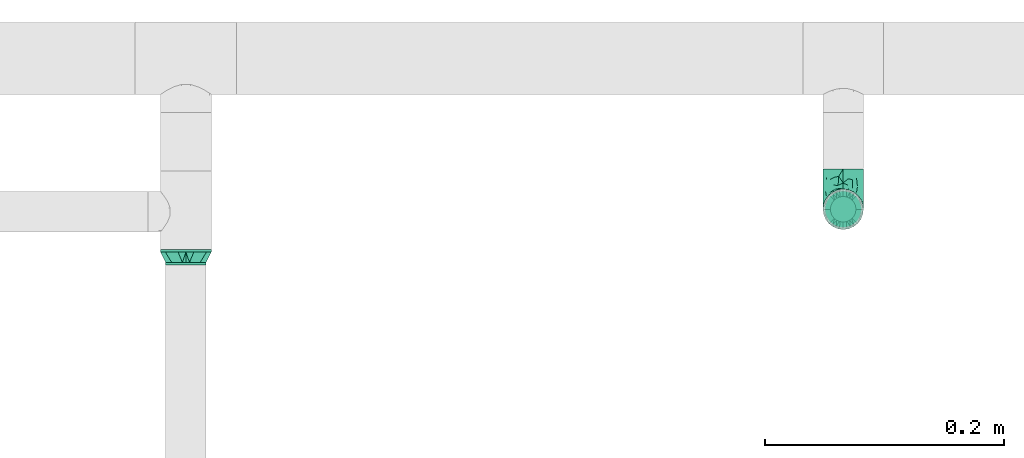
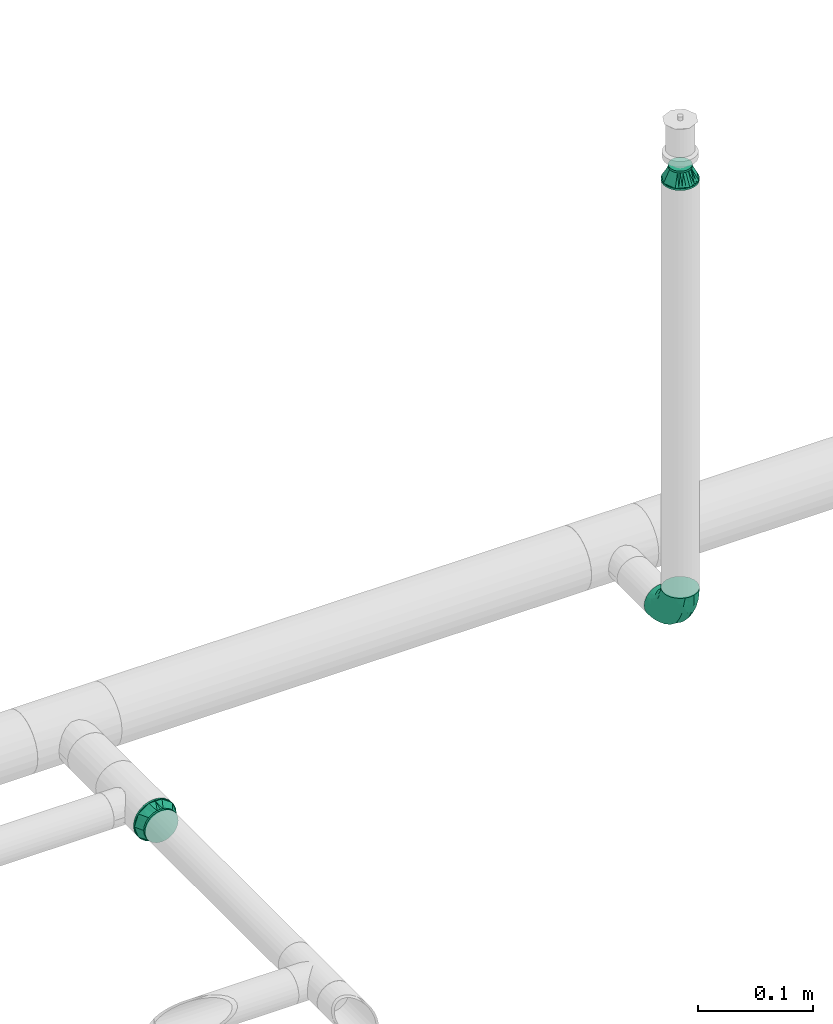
# One storey, part 70 of 157: 3 flow fittings.
"""IFC2X3 building model written with IfcOpenShell, lengths in millimetres."""

import ifcopenshell
import ifcopenshell.guid

model = None  # the IFC model being written
_history = None  # IfcOwnerHistory: only IFC2X3 demands one
_inside = {}  # id of a spatial element -> (the spatial element, [elements in it])
_under = {}  # id of a project, library or spatial element -> (it, [spatial elements below it])
_declared = {}  # id of a project -> (the project, [libraries it declares])
_typed = {}  # id of a type object -> (the type object, [elements of that type])
_made_of = {}  # id of a material, layer set ... -> (it, [elements and type objects made of it])


def new_model(schema):
    """Start an empty IFC model of exactly this schema.

    Asked for "IFC4X3", IfcOpenShell would pick the latest addendum, in which some entities
    have other attributes; the version numbers below select the first issue.
    IFC2X3 requires an IfcOwnerHistory on every rooted entity: one is made here for all.
    """
    global model, _history
    if schema == "IFC4X3":
        model = ifcopenshell.file(schema_version=(4, 3, 0, 0))
    else:
        model = ifcopenshell.file(schema=schema)
    _inside.clear()
    _under.clear()
    _declared.clear()
    _typed.clear()
    _made_of.clear()
    _history = None
    if model.schema == "IFC2X3":
        org = make("IfcOrganization", Name="unknown")
        user = make(
            "IfcPersonAndOrganization",
            ThePerson=make("IfcPerson", FamilyName="unknown"),
            TheOrganization=org,
        )
        app = make(
            "IfcApplication",
            ApplicationDeveloper=org,
            Version="unknown",
            ApplicationFullName="unknown",
            ApplicationIdentifier="unknown",
        )
        _history = make(
            "IfcOwnerHistory",
            OwningUser=user,
            OwningApplication=app,
            ChangeAction="ADDED",
            CreationDate=0,
        )
    return model


def make(cls, **values):
    """One entity of the class cls with the attributes given. An attribute that is None is left unset."""
    return model.create_entity(
        cls, **{name: value for name, value in values.items() if value is not None}
    )


def entity(cls, *values):
    """Any entity or typed value of the class cls, its attributes in the order of the schema. None: left unset."""
    e = model.create_entity(cls)
    for i, value in enumerate(values):
        if value is not None:
            e[i] = value
    return e


def rooted(cls, **values):
    """An entity with a GlobalId (a new one), such as an element, a storey or a relation."""
    return make(cls, GlobalId=ifcopenshell.guid.new(), OwnerHistory=_history, **values)


def si_unit(unit_type, name, prefix=None):
    """IfcSIUnit, for example si_unit("LENGTHUNIT", "METRE", prefix="MILLI")."""
    return make("IfcSIUnit", UnitType=unit_type, Prefix=prefix, Name=name)


def converted_unit(unit_type, name, factor, base, dimensions=None, offset=None):
    """IfcConversionBasedUnit, such as the inch: factor (a typed value) times the base unit."""
    return make(
        "IfcConversionBasedUnit"
        if offset is None
        else "IfcConversionBasedUnitWithOffset",
        ConversionOffset=offset,
        Dimensions=None
        if dimensions is None
        else entity("IfcDimensionalExponents", *dimensions),
        UnitType=unit_type,
        Name=name,
        ConversionFactor=make(
            "IfcMeasureWithUnit", ValueComponent=factor, UnitComponent=base
        ),
    )


def derived_unit(unit_type, elements):
    """IfcDerivedUnit: a product of units, each with its exponent."""
    return make(
        "IfcDerivedUnit",
        Elements=[
            make("IfcDerivedUnitElement", Unit=unit, Exponent=power)
            for unit, power in elements
        ],
        UnitType=unit_type,
    )


def assignment(units):
    """IfcUnitAssignment: the units of a project."""
    return None if units is None else make("IfcUnitAssignment", Units=units)


def point(xyz):
    """IfcCartesianPoint."""
    return None if xyz is None else make("IfcCartesianPoint", Coordinates=xyz)


def direction(xyz):
    """IfcDirection."""
    return None if xyz is None else make("IfcDirection", DirectionRatios=xyz)


def frame(location, z_axis=None, x_axis=None):
    """IfcAxis2Placement3D, a coordinate frame: its origin and axes. An axis left out is left unset."""
    return make(
        "IfcAxis2Placement3D",
        Location=point(location),
        Axis=direction(z_axis),
        RefDirection=direction(x_axis),
    )


def origin_with_axes():
    """The frame at (0, 0, 0) with the z axis (0, 0, 1) and the x axis (1, 0, 0) written out."""
    return frame((0.0, 0.0, 0.0), z_axis=(0.0, 0.0, 1.0), x_axis=(1.0, 0.0, 0.0))


def place(relative_to, where):
    """IfcLocalPlacement: puts the frame where relative to a parent placement (None: the world)."""
    return make(
        "IfcLocalPlacement", PlacementRelTo=relative_to, RelativePlacement=where
    )


def context(
    kind, dimensions, precision=None, world=None, true_north=None, identifier=None
):
    """IfcGeometricRepresentationContext, for example the 3D "Model" context."""
    return make(
        "IfcGeometricRepresentationContext",
        ContextIdentifier=identifier,
        ContextType=kind,
        CoordinateSpaceDimension=dimensions,
        Precision=precision,
        WorldCoordinateSystem=world,
        TrueNorth=true_north,
    )


def subcontext(parent, identifier, kind, view, scale=None):
    """IfcGeometricRepresentationSubContext, for example "Body" below "Model"."""
    return make(
        "IfcGeometricRepresentationSubContext",
        ContextIdentifier=identifier,
        ContextType=kind,
        ParentContext=parent,
        TargetScale=scale,
        TargetView=view,
    )


def project(units=None, contexts=None):
    """IfcProject with its units and contexts."""
    return rooted(
        "IfcProject",
        Name="project",
        RepresentationContexts=contexts,
        UnitsInContext=assignment(units),
    )


def spatial(cls, under=None, at=None, **own):
    """A site, building, storey or space (cls), placed at a placement, below another one or the project."""
    s = rooted(cls, ObjectPlacement=at, **own)
    if under is not None:
        _under.setdefault(under.id(), (under, []))[1].append(s)
    return s


def faces_of(points, faces, orient=None, outer=None):
    """IfcFace entities. A face is a list of loops; a loop is a list of indices into points, from 0.

    orient and outer hold one flag for each loop. By default every Orientation is true, the
    first loop of a face is its IfcFaceOuterBound and the others are IfcFaceBound.
    """
    made = []
    for i, loops in enumerate(faces):
        bounds = []
        for j, loop in enumerate(loops):
            is_outer = j == 0 if outer is None else outer[i][j]
            bounds.append(
                make(
                    "IfcFaceOuterBound" if is_outer else "IfcFaceBound",
                    Bound=make("IfcPolyLoop", Polygon=[points[k] for k in loop]),
                    Orientation=True if orient is None else orient[i][j],
                )
            )
        made.append(make("IfcFace", Bounds=bounds))
    return made


def open_shell(faces, orient=None, outer=None):
    """The faces of one IfcOpenShell. surface_model builds it on its shared points."""
    return ("IfcOpenShell", faces, orient, outer)


def surface_model(cls, points, shells):
    """IfcFaceBasedSurfaceModel or IfcShellBasedSurfaceModel (cls): surfaces that need not close."""
    shared = [point(p) for p in points]
    made = [make(c, CfsFaces=faces_of(shared, fs, o, b)) for c, fs, o, b in shells]
    if cls == "IfcFaceBasedSurfaceModel":
        return make(cls, FbsmFaces=made)
    return make(cls, SbsmBoundary=made)


def shape(context_of_items, identifier, shape_type, items):
    """IfcShapeRepresentation: the items that make up one representation, for example the "Body"."""
    return make(
        "IfcShapeRepresentation",
        ContextOfItems=context_of_items,
        RepresentationIdentifier=identifier,
        RepresentationType=shape_type,
        Items=items,
    )


def source(mapping_origin, context_of_items, identifier, shape_type, items):
    """IfcRepresentationMap: a shape defined once, which mapped items show again and again."""
    return make(
        "IfcRepresentationMap",
        MappingOrigin=mapping_origin,
        MappedRepresentation=shape(context_of_items, identifier, shape_type, items),
    )


def transform(
    local_origin,
    x_axis=None,
    y_axis=None,
    z_axis=None,
    scale=None,
    scale2=None,
    scale3=None,
    uniform=True,
):
    """IfcCartesianTransformationOperator3D, or its non-uniform kind. x_axis, y_axis, z_axis: its Axis1, 2, 3."""
    if uniform:
        return make(
            "IfcCartesianTransformationOperator3D",
            Axis1=direction(x_axis),
            Axis2=direction(y_axis),
            LocalOrigin=point(local_origin),
            Scale=scale,
            Axis3=direction(z_axis),
        )
    return make(
        "IfcCartesianTransformationOperator3DnonUniform",
        Axis1=direction(x_axis),
        Axis2=direction(y_axis),
        LocalOrigin=point(local_origin),
        Scale=scale,
        Axis3=direction(z_axis),
        Scale2=scale2,
        Scale3=scale3,
    )


def mapped(mapping_source, mapping_target):
    """IfcMappedItem: shows the shape of a source again, moved by a transform."""
    return make(
        "IfcMappedItem", MappingSource=mapping_source, MappingTarget=mapping_target
    )


def made_of(thing, what):
    """Note that an element or type object is made of a material, layer set ...; save() writes the relation."""
    if what is not None:
        _made_of.setdefault(what.id(), (what, []))[1].append(thing)
    return thing


def type_object(cls, material=None, **own):
    """A type object (cls), such as IfcWallType, which elements share."""
    return made_of(rooted(cls, **own), material)


def element(
    cls,
    number,
    at=None,
    inside=None,
    cuts=None,
    type_object=None,
    material=None,
    context=None,
    identifier="Body",
    shape_type=None,
    held_by="IfcProductDefinitionShape",
    body=None,
    shapes=None,
    **own,
):
    """One element of the class cls, such as IfcWall. Its Tag is "e" and its number.

    at: its placement. inside: the storey or other place that contains it. cuts: it is an
    opening in that element (IfcRelVoidsElement). A single representation is given by context,
    identifier, shape_type and body (its items); several are given by shapes. held_by: the class
    of the entity that holds the representations. save() writes the other relations.
    """
    e = rooted(cls, Tag="e%d" % number, ObjectPlacement=at, **own)
    if body is not None:
        shapes = [shape(context, identifier, shape_type, body)]
    if shapes is not None:
        e.Representation = make(held_by, Representations=shapes)
    if inside is not None:
        _inside.setdefault(inside.id(), (inside, []))[1].append(e)
    if cuts is not None:
        rooted(
            "IfcRelVoidsElement", RelatingBuildingElement=cuts, RelatedOpeningElement=e
        )
    if type_object is not None:
        _typed.setdefault(type_object.id(), (type_object, []))[1].append(e)
    return made_of(e, material)


def aggregate(whole, parts):
    """IfcRelAggregates: a whole, such as a stair, and the parts it consists of."""
    return rooted("IfcRelAggregates", RelatingObject=whole, RelatedObjects=parts)


def save(model, path):
    """Write the relations noted so far, then the file.

    IfcRelAggregates (storeys below a building ...), IfcRelContainedInSpatialStructure (elements
    in a storey), IfcRelDefinesByType, IfcRelAssociatesMaterial and IfcRelDeclares: one each for
    every whole, place, type object, material and project.
    """
    for whole, parts in _under.values():
        aggregate(whole, parts)
    for where, things in _inside.values():
        rooted(
            "IfcRelContainedInSpatialStructure",
            RelatedElements=things,
            RelatingStructure=where,
        )
    for kind, things in _typed.values():
        rooted("IfcRelDefinesByType", RelatedObjects=things, RelatingType=kind)
    for what, things in _made_of.values():
        rooted("IfcRelAssociatesMaterial", RelatedObjects=things, RelatingMaterial=what)
    for by, libraries in _declared.values():
        rooted("IfcRelDeclares", RelatingContext=by, RelatedDefinitions=libraries)
    model.write(path)


model = new_model("IFC2X3")

# Units and contexts
model_context = context("Model", 3, precision=0.01, world=frame((0.0, 4.29681676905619e-09, 0.0)), true_north=direction((4.01073788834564e-13, 1.0)))
plan_context = context("Plan", 3, precision=0.01, world=frame((0.0, 4.29681676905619e-09, 0.0)), true_north=direction((4.01073788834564e-13, 1.0)))
body_context = subcontext(model_context, "Body", "Model", "MODEL_VIEW")
ifc_project = project(units=[converted_unit("PLANEANGLEUNIT", "DEGREE", entity("IfcPositiveLengthMeasure", 0.0174532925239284), si_unit("PLANEANGLEUNIT", "RADIAN"), dimensions=[0, 0, 0, 0, 0, 0, 0]), si_unit("AREAUNIT", "SQUARE_METRE"), si_unit("LENGTHUNIT", "METRE", prefix="MILLI"), si_unit("MASSUNIT", "GRAM", prefix="KILO"), si_unit("POWERUNIT", "WATT"), si_unit("PRESSUREUNIT", "PASCAL"), si_unit("FORCEUNIT", "NEWTON", prefix="KILO"), si_unit("ELECTRICCURRENTUNIT", "AMPERE"), si_unit("THERMODYNAMICTEMPERATUREUNIT", "DEGREE_CELSIUS"), si_unit("TIMEUNIT", "SECOND"), si_unit("VOLUMEUNIT", "CUBIC_METRE"), derived_unit("LINEARVELOCITYUNIT", [(si_unit("LENGTHUNIT", "METRE"), 1), (si_unit("TIMEUNIT", "SECOND"), -1)]), derived_unit("VOLUMETRICFLOWRATEUNIT", [(si_unit("VOLUMEUNIT", "CUBIC_METRE"), 1), (si_unit("TIMEUNIT", "SECOND"), -1)]), derived_unit("THERMALTRANSMITTANCEUNIT", [(si_unit("POWERUNIT", "WATT"), 1), (si_unit("THERMODYNAMICTEMPERATUREUNIT", "KELVIN"), -1), (si_unit("AREAUNIT", "SQUARE_METRE"), -1)])], contexts=[model_context, plan_context])

# Site, building, storey
site_placement = place(None, frame((0.0, -4.29681676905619e-09, 0.0), z_axis=(0.0, 0.0, 1.0), x_axis=(1.0, 0.0, 0.0)))
site = spatial("IfcSite", under=ifc_project, at=site_placement, CompositionType="ELEMENT")
building_placement = place(site_placement, frame((0.0, 4.29681676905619e-09, 0.0), z_axis=(0.0, 0.0, 1.0), x_axis=(1.0, 0.0, 0.0)))
building = spatial("IfcBuilding", under=site, at=building_placement, Name="mc-building", CompositionType="ELEMENT")
storey_placement = place(building_placement, frame((0.0, 0.0, 204000.0), z_axis=(0.0, 0.0, 1.0), x_axis=(1.0, 0.0, 0.0)))
storey = spatial("IfcBuildingStorey", under=building, at=storey_placement, Name="Nivå D", CompositionType="ELEMENT", Elevation=204000.0)

# Flow fittings
pipe_fitting_type_1 = type_object("IfcPipeFittingType", Name="magi_pipe_fe_elbow_short_001", PredefinedType="BEND")
shared_shape_1 = source(origin_with_axes(), body_context, "Body", "SurfaceModel", [
    surface_model("IfcShellBasedSurfaceModel", [(-33.8, 8.45, -14.63583), (-33.8, 4.37404, -16.32415), (-33.8, 11.9501, -11.9501), (-33.8, -11.9501, -11.9501), (-33.8, -14.63583, -8.45), (-33.8, -8.45, -14.63583), (-33.8, 0.0, -16.9), (-33.8, -4.37404, -16.32415), (-33.8, -4.37404, 16.32415), (-33.8, 0.0, 16.9), (-33.8, -8.45, 14.63583), (-33.8, 16.32415, -4.37404), (-33.8, 14.63583, -8.45), (-33.8, -16.32415, -4.37404), (-33.8, -16.9, 0.0), (-33.8, -16.32415, 4.37404), (-33.8, 11.9501, 11.9501), (-33.8, 14.63583, 8.45), (-33.8, 16.32415, 4.37404), (-33.8, 4.37404, 16.32415), (-33.8, 8.45, 14.63583), (-33.8, -14.63583, 8.45), (-33.8, -11.9501, 11.9501), (-33.8, 16.9, 0.0), (-11.9501, 33.8, -11.9501), (0.0, 33.8, -16.9), (-4.37404, 33.8, -16.32415), (-8.45, 33.8, -14.63583), (-14.63583, 33.8, -8.45), (-16.32415, 33.8, -4.37404), (14.63583, 33.8, -8.45), (8.45, 33.8, 14.63583), (16.32415, 33.8, -4.37404), (8.45, 33.8, -14.63583), (11.9501, 33.8, -11.9501), (4.37404, 33.8, -16.32415), (16.32415, 33.8, 4.37404), (16.9, 33.8, 0.0), (-11.9501, 33.8, 11.9501), (-16.32415, 33.8, 4.37404), (-14.63583, 33.8, 8.45), (-8.45, 33.8, 14.63583), (-4.37404, 33.8, 16.32415), (11.9501, 33.8, 11.9501), (14.63583, 33.8, 8.45), (0.0, 33.8, 16.9), (4.37404, 33.8, 16.32415), (-16.9, 33.8, 0.0), (-24.79389, -13.12945, 9.48721), (-22.19287, -9.75018, 12.59315), (-24.09897, -14.97035, 0.0), (-14.93934, -10.76256, 8.5297), (-22.46095, -14.75051, 5.27077), (14.75051, 22.46094, 5.27077), (11.9251, 13.23888, 4.33236), (13.04069, 14.39795, 0.0), (7.71387, 13.68847, 11.55891), (9.75018, 22.19287, 12.59315), (4.10169, 13.0571, 14.04018), (-24.84007, -6.39063, 15.2048), (-25.81779, -2.23879, 16.61097), (-23.66549, 2.59054, 16.87119), (-26.50418, 14.06512, 11.08152), (-24.21253, 17.66365, 7.72657), (-29.58514, 15.86957, 7.00283), (-6.17382, -7.5455, 0.0), (-13.23888, -11.9251, 4.33236), (-14.39795, -13.04069, 0.0), (-17.81434, 18.87373, 11.97104), (-6.30846, 29.15138, 15.82987), (-2.31622, 25.28002, 16.85849), (-29.23923, 10.23435, 13.77053), (-1.45439, -2.85688, 7.61475), (-0.28326, 0.34872, 10.09509), (-5.74484, -4.04709, 10.4122), (-4.41137, 11.31918, 16.59407), (-8.39727, 3.10034, 15.7812), (-1.72649, 9.1306, 15.53089), (-17.39909, 24.75344, 7.64977), (-26.19233, 20.0512, 0.0), (-28.14518, 17.29657, 4.25857), (-26.05147, 6.6281, 15.96447), (-5.87354, 16.61944, 16.86968), (-12.51807, 12.51807, 16.48937), (-10.06312, 7.38516, 16.81295), (-3.01882, 3.01882, 13.81718), (-13.0571, -4.10169, 14.04018), (-16.82553, -0.15166, 16.38038), (10.76256, 14.93934, 8.5297), (13.12945, 24.79389, 9.48721), (6.39063, 24.84007, 15.2048), (2.23879, 25.81779, 16.61097), (-13.68847, -7.71387, 11.55891), (14.97035, 24.09897, 0.0), (-7.30894, 22.89991, 16.09489), (-10.67958, 26.17414, 14.008), (-12.78295, 18.26924, 15.06066), (-13.88562, 22.45231, 12.93244), (-18.04944, 15.16501, 14.04434), (-23.11658, 20.08178, 4.02986), (-21.84989, 21.84989, 0.0), (-18.55817, 25.48277, 3.93065), (-13.95142, 26.94732, 11.03289), (-18.57098, 7.23906, 16.59756), (-16.58335, 4.14122, 16.89279), (-17.96666, 11.46709, 15.63151), (-9.84453, 17.54304, 16.18938), (0.15166, 16.82553, 16.38038), (-23.27207, 11.47201, 14.23154), (3.84842, 5.86994, 10.70473), (-8.0212, -7.54413, 7.93275), (1.00345, -2.19508, 4.57414), (5.13203, 3.01004, 5.90201), (5.24161, 1.7543, 2.53265), (8.70457, 7.04947, 3.99182), (-20.0512, 26.19233, 0.0), (8.4852, 8.76699, 7.09296), (-4.55488, -6.72064, 4.90681), (2.05031, -2.05031, 0.0), (7.5455, 6.17382, 0.0), (-26.75399, 2.1369, -16.845), (-14.61995, 24.73803, -11.27736), (-28.45274, -13.45335, -9.81895), (-26.00469, 6.63555, -15.96645), (-23.06726, 20.04573, -4.26202), (-13.80647, -4.26506, -14.17873), (-14.67501, -0.21081, -16.07388), (-6.7902, -0.2828, -13.8478), (-24.53586, 11.08096, -14.13417), (-26.72048, 14.00837, -11.05776), (10.0967, 24.44989, -12.75976), (5.83237, 21.40218, -15.03047), (6.66249, 28.54238, -15.38093), (-20.38182, 15.48705, -12.74596), (12.53268, 21.23441, -9.15363), (12.54494, 15.67504, -5.54878), (9.7522, 12.89279, -8.66343), (-15.65186, 19.64213, -13.01327), (-12.03528, 20.66498, -14.67665), (-15.61907, 15.61906, -14.83879), (-25.56551, -15.26206, 0.0), (-24.65452, -15.12934, -5.50955), (13.45335, 28.45274, -9.81895), (15.12934, 24.65452, -5.50955), (-7.35442, -8.31014, -5.65563), (-15.67504, -12.54494, -5.54878), (-24.44989, -10.0967, -12.75976), (0.16522, 0.41303, -9.71728), (-5.70658, -5.33066, -8.89288), (-5.13869, -2.37198, -11.53565), (-21.23441, -12.53268, -9.15363), (0.71146, 7.93863, -14.09382), (0.21081, 14.67501, -16.07388), (3.49291, 14.42772, -14.76381), (-24.89911, -2.13088, -16.591), (-28.54238, -6.66249, -15.38093), (-18.44386, -7.71663, -13.26957), (2.13088, 24.89911, -16.591), (-28.64342, 17.44413, -2.89318), (1.70017, -1.28722, -5.09504), (-16.57067, 26.81947, -7.36596), (-17.69055, 27.4263, -3.76405), (-12.89279, -9.7522, -8.66343), (-5.96611, 5.96611, -15.95814), (-20.53709, 20.09345, -8.28985), (-2.1369, 26.75399, -16.845), (-6.89872, 24.58781, -16.02578), (-10.60739, 26.53157, -13.98044), (-21.40218, -5.83237, -15.03047), (2.93192, 5.89627, -11.55917), (6.89393, 12.61842, -11.82233), (5.58056, 5.95325, -8.79455), (-3.99512, 18.61798, -16.89635), (8.31014, 7.35442, -5.65563), (-9.1383, 9.86148, -16.89041), (-9.99983, 16.02119, -16.39699), (-16.68576, 9.78031, -16.34199), (-27.01915, 16.61158, -7.12979), (15.26206, 25.56551, 0.0), (-18.61798, 3.99512, -16.89635), (-19.37495, 27.82495, 0.0), (-12.61842, -6.89393, -11.82233), (-18.84705, 19.14018, -10.96545)], [open_shell([[[0, 1, 2]], [[3, 4, 5]], [[6, 7, 5]], [[8, 9, 10]], [[1, 6, 2]], [[11, 12, 2]], [[4, 2, 6]], [[2, 13, 10]], [[5, 4, 6]], [[2, 4, 13]], [[14, 15, 13]], [[11, 2, 16]], [[11, 17, 18]], [[11, 16, 17]], [[19, 20, 16]], [[16, 2, 10]], [[19, 16, 10]], [[21, 22, 15]], [[22, 13, 15]], [[22, 10, 13]], [[10, 9, 19]], [[11, 18, 23]], [[24, 25, 26]], [[24, 26, 27]], [[24, 28, 29]], [[25, 24, 30]], [[31, 32, 24]], [[33, 30, 34]], [[33, 35, 25]], [[25, 30, 33]], [[32, 30, 24]], [[32, 36, 37]], [[38, 24, 29]], [[39, 40, 29]], [[40, 38, 29]], [[38, 41, 42]], [[38, 31, 24]], [[31, 38, 42]], [[36, 43, 44]], [[36, 32, 43]], [[31, 45, 46]], [[32, 31, 43]], [[42, 45, 31]], [[39, 29, 47]], [[22, 48, 49]], [[15, 14, 50]], [[51, 48, 52]], [[53, 54, 55]], [[48, 22, 21]], [[15, 52, 21]], [[56, 57, 58]], [[49, 10, 22]], [[49, 59, 10]], [[9, 60, 61]], [[62, 63, 64]], [[65, 66, 67]], [[57, 43, 31]], [[62, 68, 63]], [[42, 69, 70]], [[20, 71, 16]], [[8, 60, 9]], [[72, 73, 74]], [[75, 76, 77]], [[16, 62, 17]], [[40, 39, 78]], [[79, 23, 80]], [[64, 18, 17]], [[9, 61, 19]], [[19, 81, 20]], [[82, 83, 84]], [[74, 85, 86]], [[59, 86, 87]], [[88, 89, 57]], [[90, 31, 46]], [[44, 53, 36]], [[46, 45, 91]], [[54, 53, 88]], [[44, 89, 53]], [[92, 86, 49]], [[89, 44, 43]], [[10, 59, 8]], [[53, 55, 93]], [[93, 36, 53]], [[66, 52, 67]], [[94, 82, 70]], [[95, 96, 94]], [[97, 98, 96]], [[79, 99, 100]], [[41, 38, 95]], [[101, 100, 99]], [[68, 78, 63]], [[42, 41, 69]], [[23, 18, 80]], [[95, 94, 69]], [[78, 101, 99]], [[38, 102, 95]], [[70, 45, 42]], [[97, 95, 102]], [[15, 50, 52]], [[90, 57, 31]], [[57, 90, 58]], [[81, 19, 61]], [[103, 104, 84]], [[105, 81, 103]], [[38, 40, 102]], [[106, 96, 83]], [[94, 106, 82]], [[91, 70, 107]], [[71, 62, 16]], [[62, 108, 98]], [[86, 59, 49]], [[67, 52, 50]], [[60, 59, 87]], [[92, 49, 51]], [[86, 85, 76]], [[91, 90, 46]], [[37, 36, 93]], [[107, 77, 58]], [[107, 58, 90]], [[58, 85, 109]], [[110, 74, 92]], [[72, 74, 110]], [[66, 51, 52]], [[72, 111, 112]], [[113, 114, 112]], [[56, 88, 57]], [[52, 48, 21]], [[49, 48, 51]], [[57, 89, 43]], [[53, 89, 88]], [[103, 81, 61]], [[71, 81, 108]], [[18, 64, 80]], [[63, 78, 99]], [[47, 115, 101]], [[101, 115, 100]], [[40, 78, 102]], [[68, 102, 78]], [[97, 96, 95]], [[105, 98, 108]], [[103, 84, 83]], [[107, 70, 82]], [[76, 84, 87]], [[82, 84, 75]], [[70, 91, 45]], [[90, 91, 107]], [[59, 60, 8]], [[61, 60, 87]], [[73, 85, 74]], [[109, 112, 116]], [[103, 61, 104]], [[105, 103, 83]], [[96, 105, 83]], [[81, 105, 108]], [[96, 98, 105]], [[62, 98, 68]], [[61, 87, 104]], [[87, 84, 104]], [[86, 76, 87]], [[77, 76, 85]], [[58, 77, 85]], [[75, 77, 107]], [[82, 75, 107]], [[76, 75, 84]], [[81, 71, 20]], [[62, 71, 108]], [[95, 69, 41]], [[70, 69, 94]], [[62, 64, 17]], [[80, 63, 99]], [[63, 80, 64]], [[80, 99, 79]], [[66, 65, 117]], [[110, 66, 117]], [[112, 114, 116]], [[118, 117, 65]], [[110, 92, 51]], [[112, 111, 113]], [[119, 55, 54]], [[74, 86, 92]], [[58, 109, 56]], [[116, 56, 109]], [[66, 110, 51]], [[72, 110, 117]], [[111, 72, 117]], [[73, 112, 109]], [[117, 118, 111]], [[113, 111, 118]], [[118, 119, 113]], [[114, 119, 54]], [[119, 114, 113]], [[116, 54, 88]], [[54, 116, 114]], [[116, 88, 56]], [[112, 73, 72]], [[85, 73, 109]], [[78, 39, 101]], [[47, 101, 39]], [[102, 68, 97]], [[97, 68, 98]], [[82, 106, 83]], [[94, 96, 106]], [[1, 120, 6]], [[28, 24, 121]], [[3, 122, 4]], [[0, 123, 1]], [[100, 124, 79]], [[125, 126, 127]], [[128, 2, 129]], [[130, 131, 132]], [[128, 129, 133]], [[134, 135, 136]], [[137, 138, 139]], [[128, 0, 2]], [[67, 140, 141]], [[134, 142, 143]], [[141, 13, 4]], [[144, 65, 145]], [[146, 3, 5]], [[147, 148, 149]], [[145, 141, 150]], [[151, 152, 153]], [[154, 7, 6]], [[5, 155, 146]], [[150, 146, 156]], [[155, 5, 7]], [[143, 135, 134]], [[35, 157, 25]], [[23, 79, 158]], [[148, 159, 144]], [[160, 161, 29]], [[145, 162, 144]], [[163, 152, 151]], [[29, 28, 160]], [[121, 164, 160]], [[33, 34, 130]], [[25, 165, 26]], [[26, 165, 166]], [[142, 34, 30]], [[24, 27, 167]], [[124, 161, 164]], [[157, 35, 132]], [[155, 154, 168]], [[123, 0, 128]], [[169, 170, 171]], [[172, 157, 152]], [[26, 166, 27]], [[132, 35, 33]], [[142, 130, 34]], [[168, 154, 126]], [[136, 135, 173]], [[133, 137, 139]], [[2, 12, 129]], [[170, 131, 130]], [[30, 32, 143]], [[172, 174, 175]], [[176, 123, 128]], [[158, 177, 11]], [[135, 55, 119]], [[167, 27, 166]], [[175, 166, 172]], [[137, 167, 138]], [[122, 141, 4]], [[140, 14, 13]], [[32, 37, 178]], [[170, 130, 134]], [[152, 157, 131]], [[165, 157, 172]], [[153, 170, 151]], [[152, 163, 174]], [[168, 125, 156]], [[122, 146, 150]], [[120, 154, 6]], [[179, 174, 126]], [[179, 126, 154]], [[126, 163, 127]], [[162, 145, 150]], [[140, 13, 141]], [[32, 178, 143]], [[55, 143, 178]], [[177, 129, 12]], [[128, 133, 139]], [[176, 128, 139]], [[120, 123, 179]], [[121, 160, 28]], [[161, 100, 180]], [[166, 175, 138]], [[121, 24, 167]], [[161, 47, 29]], [[79, 124, 158]], [[124, 164, 177]], [[161, 124, 100]], [[136, 171, 170]], [[127, 163, 151]], [[147, 171, 159]], [[148, 144, 162]], [[127, 151, 169]], [[127, 181, 125]], [[129, 177, 164]], [[12, 11, 177]], [[159, 65, 144]], [[67, 141, 145]], [[143, 55, 135]], [[135, 119, 173]], [[123, 120, 1]], [[154, 120, 179]], [[157, 165, 25]], [[166, 165, 172]], [[172, 152, 174]], [[176, 139, 175]], [[126, 174, 163]], [[176, 174, 179]], [[174, 176, 175]], [[123, 176, 179]], [[150, 181, 162]], [[127, 149, 181]], [[181, 148, 162]], [[159, 148, 147]], [[171, 136, 173]], [[170, 134, 136]], [[159, 171, 173]], [[171, 147, 169]], [[169, 147, 149]], [[151, 170, 169]], [[164, 182, 129]], [[182, 121, 137]], [[181, 149, 148]], [[169, 149, 127]], [[182, 137, 133]], [[167, 137, 121]], [[166, 138, 167]], [[175, 139, 138]], [[129, 182, 133]], [[121, 182, 164]], [[161, 160, 164]], [[47, 161, 180]], [[177, 158, 124]], [[23, 158, 11]], [[130, 132, 33]], [[157, 132, 131]], [[143, 142, 30]], [[130, 142, 134]], [[154, 155, 7]], [[146, 155, 168]], [[146, 122, 3]], [[141, 122, 150]], [[152, 131, 153]], [[159, 119, 118]], [[67, 145, 65]], [[170, 153, 131]], [[119, 159, 173]], [[159, 118, 65]], [[156, 125, 181]], [[126, 125, 168]], [[150, 156, 181]], [[168, 156, 146]]])]),
])
flow_fitting_1_placement = place(storey_placement, frame((519235.35, 413913.20018, 2690.0), z_axis=(1.0, 0.0, 0.0), x_axis=(0.0, 0.0, -1.0)))
element("IfcFlowFitting", 1, at=flow_fitting_1_placement, inside=storey, type_object=pipe_fitting_type_1, Name="magi_pipe_fe_elbow_short_001", context=body_context, shape_type="MappedRepresentation", body=[
    mapped(shared_shape_1, transform((0.0, 0.0, 0.0), scale=1.0)),
])
pipe_fitting_type_2 = type_object("IfcPipeFittingType", Name="magi_pipe_fe_reducer_centric_short_NOR", PredefinedType="TRANSITION")
shared_shape_2 = source(origin_with_axes(), body_context, "Body", "SurfaceModel", [
    surface_model("IfcShellBasedSurfaceModel", [(-2.0, -10.6, -18.35974), (-2.0, 0.0, -21.2), (-2.0, -5.48696, -20.47763), (-2.0, 5.48696, -20.47763), (-2.0, 10.6, -18.35974), (8.6, -11.9501, -11.9501), (8.6, -11.9501, 11.9501), (8.6, -16.9, 0.0), (8.6, 11.9501, -11.9501), (8.6, 16.9, 0.0), (8.6, 0.0, -16.9), (0.0, 17.15116, 12.46105), (0.0, 6.55116, -20.1624), (0.0, -21.2, 0.0), (0.0, -6.55116, -20.1624), (0.0, -17.15116, -12.46105), (8.6, 2.98753, -15.66253), (0.0, 0.0, -20.1624), (0.0, -11.85116, -16.31172), (8.6, -2.98753, -15.66253), (8.6, 8.96258, -13.18758), (8.6, 5.97505, -14.42505), (0.0, 11.85116, -16.31172), (8.6, -5.97505, -14.42505), (8.6, -13.18758, -8.96258), (8.6, -8.96258, -13.18758), (0.0, -6.55116, 20.1624), (8.6, -2.98753, 15.66253), (0.0, 0.0, 20.1624), (8.6, 11.9501, 11.9501), (0.0, 11.85116, 16.31172), (8.6, 2.98753, 15.66253), (0.0, 6.55116, 20.1624), (8.6, -8.96258, 13.18758), (8.6, -5.97505, 14.42505), (0.0, -11.85116, 16.31172), (8.6, 5.97505, 14.42505), (8.6, 13.18758, 8.96258), (8.6, 8.96258, 13.18758), (10.6, 4.37404, -16.32415), (10.6, 8.45, -14.63583), (10.6, 11.9501, -11.9501), (10.6, -8.45, -14.63583), (10.6, 16.32415, -4.37404), (10.6, 16.32415, 4.37404), (10.6, 14.63583, -8.45), (10.6, 0.0, -16.9), (10.6, -4.37404, -16.32415), (10.6, -11.9501, -11.9501), (10.6, -16.32415, -4.37404), (10.6, -14.63583, -8.45), (10.6, -16.32415, 4.37404), (10.6, 16.9, 0.0), (10.6, 14.63583, 8.45), (10.6, 11.9501, 11.9501), (10.6, 4.37404, 16.32415), (10.6, 8.45, 14.63583), (10.6, 0.0, 16.9), (10.6, -14.63583, 8.45), (10.6, -16.9, 0.0), (10.6, -8.45, 14.63583), (10.6, -11.9501, 11.9501), (10.6, -4.37404, 16.32415), (8.6, 4.37404, 16.32415), (8.6, -14.63583, 8.45), (8.6, 0.0, 16.9), (8.6, 16.32415, 4.37404), (8.6, 8.45, 14.63583), (8.6, 14.63583, 8.45), (8.6, -8.45, 14.63583), (8.6, -4.37404, 16.32415), (8.6, -16.32415, 4.37404), (8.6, -16.32415, -4.37404), (8.6, -8.45, -14.63583), (8.6, 16.32415, -4.37404), (8.6, 14.63583, -8.45), (8.6, 8.45, -14.63583), (8.6, 4.37404, -16.32415), (8.6, -14.63583, -8.45), (8.6, -4.37404, -16.32415), (-2.0, 0.0, 21.2), (-2.0, 5.48696, 20.47763), (-2.0, 10.6, 18.35974), (-2.0, 14.99066, 14.99066), (-2.0, 18.35974, 10.6), (-2.0, 20.47763, 5.48696), (-2.0, -21.2, 0.0), (-2.0, -14.99066, -14.99066), (-2.0, -5.48696, 20.47763), (-2.0, -14.99066, 14.99066), (-2.0, -10.6, 18.35974), (-2.0, -18.35974, 10.6), (-2.0, -20.47763, 5.48696), (-2.0, 20.47763, -5.48696), (-2.0, 14.99066, -14.99066), (-2.0, 18.35974, -10.6), (-2.0, -18.35974, -10.6), (-2.0, -20.47763, -5.48696), (-2.0, 21.2, 0.0), (0.0, 10.6, -18.35974), (0.0, 0.0, -21.2), (0.0, 5.48696, -20.47763), (0.0, 20.47763, -5.48696), (0.0, 14.99066, -14.99066), (0.0, -14.99066, -14.99066), (0.0, 18.35974, -10.6), (0.0, -10.6, -18.35974), (0.0, -5.48696, -20.47763), (0.0, -18.35974, -10.6), (0.0, -20.47763, -5.48696), (0.0, -18.35974, 10.6), (0.0, 21.2, 0.0), (0.0, 20.47763, 5.48696), (0.0, 18.35974, 10.6), (0.0, 14.99066, 14.99066), (0.0, 0.0, 21.2), (0.0, 10.6, 18.35974), (0.0, 5.48696, 20.47763), (0.0, -14.99066, 14.99066), (0.0, -20.47763, 5.48696), (0.0, -5.48696, 20.47763), (0.0, -10.6, 18.35974), (0.0, -17.15116, 12.46105), (0.0, 17.15116, -12.46105), (0.0, 14.50116, -14.38638), (8.6, -14.42505, -5.97505), (0.0, -19.17558, -6.23052), (0.0, -18.16337, -9.34579), (8.6, 14.42505, -5.97505), (0.0, 19.17558, -6.23052), (8.6, 13.18758, -8.96258), (8.6, 15.66253, -2.98753), (8.6, -15.66253, -2.98753), (0.0, -14.50116, 14.38638), (8.6, 14.42505, 5.97505), (0.0, 19.17558, 6.23052), (0.0, 18.16337, 9.34579), (8.6, -14.42505, 5.97505), (0.0, -19.17558, 6.23052), (8.6, -13.18758, 8.96258), (8.6, -15.66253, 2.98753), (8.6, 15.66253, 2.98753)], [open_shell([[[0, 1, 2]], [[3, 1, 4]], [[5, 6, 7]], [[8, 9, 10]], [[11, 12, 13]], [[13, 12, 14]], [[13, 14, 15]], [[12, 16, 17]], [[5, 15, 18]], [[17, 19, 14]], [[20, 21, 22]], [[19, 23, 14]], [[12, 21, 16]], [[15, 5, 24]], [[25, 5, 18]], [[22, 8, 20]], [[26, 27, 28]], [[29, 11, 30]], [[28, 31, 32]], [[33, 34, 35]], [[31, 36, 32]], [[26, 34, 27]], [[11, 29, 37]], [[38, 29, 30]], [[35, 6, 33]], [[39, 40, 41]], [[42, 39, 41]], [[41, 43, 44]], [[43, 41, 45]], [[41, 44, 42]], [[46, 42, 47]], [[46, 39, 42]], [[48, 49, 50]], [[49, 48, 42]], [[42, 51, 49]], [[44, 43, 52]], [[44, 53, 54]], [[44, 54, 55]], [[55, 51, 42]], [[55, 54, 56]], [[51, 55, 57]], [[57, 58, 51]], [[59, 49, 51]], [[58, 60, 61]], [[58, 57, 60]], [[60, 57, 62]], [[42, 44, 55]], [[63, 64, 65]], [[66, 63, 67]], [[29, 68, 66]], [[29, 66, 67]], [[64, 63, 66]], [[69, 64, 6]], [[69, 70, 65]], [[65, 64, 69]], [[71, 64, 66]], [[71, 72, 7]], [[71, 66, 73]], [[66, 74, 8]], [[8, 74, 75]], [[8, 76, 77]], [[73, 66, 8]], [[77, 10, 8]], [[72, 5, 78]], [[5, 72, 73]], [[73, 10, 79]], [[72, 71, 73]], [[8, 10, 73]], [[74, 66, 9]], [[72, 49, 7]], [[78, 50, 72]], [[42, 5, 73]], [[78, 5, 48]], [[47, 73, 79]], [[72, 50, 49]], [[49, 59, 7]], [[47, 42, 73]], [[48, 5, 42]], [[48, 50, 78]], [[46, 47, 79]], [[79, 10, 46]], [[77, 39, 10]], [[76, 40, 77]], [[45, 8, 75]], [[76, 8, 41]], [[43, 75, 74]], [[76, 41, 40]], [[40, 39, 77]], [[52, 43, 74]], [[45, 75, 43]], [[45, 41, 8]], [[9, 52, 74]], [[10, 39, 46]], [[66, 44, 9]], [[68, 53, 66]], [[56, 29, 67]], [[68, 29, 54]], [[55, 67, 63]], [[66, 53, 44]], [[44, 52, 9]], [[55, 56, 67]], [[54, 29, 56]], [[54, 53, 68]], [[57, 55, 63]], [[63, 65, 57]], [[70, 62, 65]], [[69, 60, 70]], [[58, 6, 64]], [[69, 6, 61]], [[51, 64, 71]], [[69, 61, 60]], [[60, 62, 70]], [[59, 51, 71]], [[58, 64, 51]], [[58, 61, 6]], [[7, 59, 71]], [[65, 62, 57]], [[80, 81, 82]], [[80, 82, 83]], [[83, 84, 85]], [[83, 85, 80]], [[86, 80, 87]], [[88, 89, 90]], [[88, 80, 89]], [[91, 86, 92]], [[89, 80, 91]], [[80, 86, 91]], [[80, 85, 87]], [[85, 93, 4]], [[94, 93, 95]], [[87, 85, 4]], [[4, 93, 94]], [[86, 96, 97]], [[87, 96, 86]], [[0, 87, 4]], [[1, 0, 4]], [[93, 85, 98]], [[99, 100, 101]], [[102, 99, 103]], [[13, 104, 99]], [[102, 103, 105]], [[102, 13, 99]], [[100, 106, 107]], [[100, 99, 106]], [[108, 13, 109]], [[106, 99, 104]], [[108, 104, 13]], [[110, 102, 111]], [[112, 113, 114]], [[112, 114, 115]], [[116, 117, 115]], [[116, 115, 114]], [[112, 115, 118]], [[13, 110, 119]], [[102, 110, 13]], [[118, 120, 121]], [[110, 112, 118]], [[115, 120, 118]], [[110, 111, 112]], [[97, 109, 86]], [[96, 108, 97]], [[106, 87, 0]], [[96, 87, 104]], [[107, 0, 2]], [[97, 108, 109]], [[109, 13, 86]], [[107, 106, 0]], [[104, 87, 106]], [[104, 108, 96]], [[100, 107, 2]], [[2, 1, 100]], [[3, 101, 1]], [[4, 99, 3]], [[105, 94, 95]], [[4, 94, 103]], [[102, 95, 93]], [[4, 103, 99]], [[99, 101, 3]], [[111, 102, 93]], [[105, 95, 102]], [[105, 103, 94]], [[98, 111, 93]], [[1, 101, 100]], [[85, 112, 98]], [[84, 113, 85]], [[116, 83, 82]], [[84, 83, 114]], [[117, 82, 81]], [[85, 113, 112]], [[112, 111, 98]], [[117, 116, 82]], [[114, 83, 116]], [[114, 113, 84]], [[115, 117, 81]], [[81, 80, 115]], [[88, 120, 80]], [[90, 121, 88]], [[110, 89, 91]], [[90, 89, 118]], [[119, 91, 92]], [[90, 118, 121]], [[121, 120, 88]], [[13, 119, 92]], [[110, 91, 119]], [[110, 118, 89]], [[86, 13, 92]], [[80, 120, 115]], [[65, 6, 29]], [[9, 29, 6]], [[6, 10, 9]], [[10, 6, 5]], [[32, 11, 122]], [[32, 122, 26]], [[122, 11, 13]], [[12, 11, 123]], [[123, 11, 111]], [[8, 22, 124]], [[125, 126, 127]], [[22, 21, 12]], [[8, 124, 123]], [[128, 123, 129]], [[17, 16, 10]], [[123, 128, 130]], [[111, 131, 129]], [[13, 132, 7]], [[18, 23, 25]], [[13, 126, 132]], [[19, 17, 10]], [[131, 111, 9]], [[125, 132, 126]], [[15, 24, 127]], [[24, 125, 127]], [[8, 123, 130]], [[23, 18, 14]], [[131, 128, 129]], [[6, 35, 133]], [[134, 135, 136]], [[35, 34, 26]], [[6, 133, 122]], [[137, 122, 138]], [[28, 27, 65]], [[122, 137, 139]], [[13, 140, 138]], [[111, 141, 9]], [[30, 36, 38]], [[111, 135, 141]], [[31, 28, 65]], [[140, 13, 7]], [[134, 141, 135]], [[11, 37, 136]], [[37, 134, 136]], [[6, 122, 139]], [[36, 30, 32]], [[140, 137, 138]]])]),
])
flow_fitting_2_placement = place(storey_placement, frame((518685.97464, 413877.40018, 2690.0), z_axis=(0.0, 0.0, 1.0), x_axis=(0.0, -1.0, 0.0)))
element("IfcFlowFitting", 2, at=flow_fitting_2_placement, inside=storey, type_object=pipe_fitting_type_2, Name="magi_pipe_fe_reducer_centric_short_NOR", context=body_context, shape_type="MappedRepresentation", body=[
    mapped(shared_shape_2, transform((0.0, 0.0, 0.0), scale=1.0)),
])
shared_shape_3 = source(origin_with_axes(), body_context, "Body", "SurfaceModel", [
    surface_model("IfcShellBasedSurfaceModel", [(-2.0, -7.56604, -7.56604), (-2.0, -10.33541, -2.76936), (-2.0, -5.35, -9.26647), (-2.0, 5.35, -9.26647), (-2.0, 10.33541, -2.76936), (-2.0, 7.56604, -7.56604), (12.4, 11.9501, 11.9501), (12.4, 0.0, 16.9), (12.4, 11.9501, -11.9501), (12.4, 16.9, 0.0), (0.0, -10.7, 0.0), (0.0, -5.35, 9.26647), (0.0, -5.35, -9.26647), (0.0, 10.7, 0.0), (12.4, 15.66253, -2.98753), (12.4, 8.96258, -13.18758), (0.0, 6.6875, -6.94985), (12.4, -15.66253, -2.98753), (12.4, -16.9, 0.0), (12.4, 5.97505, -14.42505), (0.0, 5.35, -9.26647), (12.4, 14.42505, -5.97505), (0.0, 8.025, -4.63324), (0.0, 9.3625, -2.31662), (0.0, -9.3625, -2.31662), (0.0, -8.025, -4.63324), (12.4, -14.42505, -5.97505), (12.4, 13.18758, -8.96258), (12.4, -13.18758, -8.96258), (12.4, -11.9501, -11.9501), (0.0, -6.6875, -6.94985), (12.4, -8.96258, -13.18758), (12.4, -5.97505, -14.42505), (12.4, -15.66253, 2.98753), (12.4, -8.96258, 13.18758), (0.0, -6.6875, 6.94985), (12.4, -11.9501, 11.9501), (12.4, 15.66253, 2.98753), (12.4, -5.97505, 14.42505), (12.4, -14.42505, 5.97505), (0.0, -8.025, 4.63324), (0.0, -9.3625, 2.31662), (0.0, 9.3625, 2.31662), (0.0, 8.025, 4.63324), (12.4, 14.42505, 5.97505), (12.4, -13.18758, 8.96258), (12.4, 13.18758, 8.96258), (0.0, 6.6875, 6.94985), (12.4, 8.96258, 13.18758), (0.0, 5.35, 9.26647), (12.4, 5.97505, 14.42505), (14.4, 4.37404, -16.32415), (14.4, 8.45, -14.63583), (14.4, 11.9501, -11.9501), (14.4, -8.45, -14.63583), (14.4, 16.32415, -4.37404), (14.4, 16.32415, 4.37404), (14.4, 14.63583, -8.45), (14.4, 0.0, -16.9), (14.4, -4.37404, -16.32415), (14.4, -11.9501, -11.9501), (14.4, -16.32415, -4.37404), (14.4, -14.63583, -8.45), (14.4, -16.32415, 4.37404), (14.4, 16.9, 0.0), (14.4, 14.63583, 8.45), (14.4, 11.9501, 11.9501), (14.4, 4.37404, 16.32415), (14.4, 8.45, 14.63583), (14.4, 0.0, 16.9), (14.4, -14.63583, 8.45), (14.4, -16.9, 0.0), (14.4, -8.45, 14.63583), (14.4, -11.9501, 11.9501), (14.4, -4.37404, 16.32415), (12.4, 4.37404, 16.32415), (12.4, -14.63583, 8.45), (12.4, 16.32415, 4.37404), (12.4, 8.45, 14.63583), (12.4, 14.63583, 8.45), (12.4, -8.45, 14.63583), (12.4, -4.37404, 16.32415), (12.4, -16.32415, 4.37404), (12.4, -16.32415, -4.37404), (12.4, -8.45, -14.63583), (12.4, 16.32415, -4.37404), (12.4, 14.63583, -8.45), (12.4, 8.45, -14.63583), (12.4, 4.37404, -16.32415), (12.4, 0.0, -16.9), (12.4, -14.63583, -8.45), (12.4, -4.37404, -16.32415), (-2.0, 2.76936, 10.33541), (-2.0, 0.0, 10.7), (-2.0, 5.35, 9.26647), (-2.0, 7.56604, 7.56604), (-2.0, 9.26647, 5.35), (-2.0, 10.33541, 2.76936), (-2.0, -10.33541, 2.76936), (-2.0, -2.76936, 10.33541), (-2.0, -7.56604, 7.56604), (-2.0, -5.35, 9.26647), (-2.0, -9.26647, 5.35), (-2.0, -10.7, 0.0), (-2.0, 9.26647, -5.35), (-2.0, 2.76936, -10.33541), (-2.0, -9.26647, -5.35), (-2.0, 0.0, -10.7), (-2.0, -2.76936, -10.33541), (-2.0, 10.7, 0.0), (0.0, 0.0, -10.7), (0.0, 2.76936, -10.33541), (0.0, 10.33541, -2.76936), (0.0, 7.56604, -7.56604), (0.0, -10.33541, -2.76936), (0.0, 9.26647, -5.35), (0.0, 0.0, 10.7), (0.0, -2.76936, -10.33541), (0.0, -7.56604, -7.56604), (0.0, -9.26647, -5.35), (0.0, 10.33541, 2.76936), (0.0, 9.26647, 5.35), (0.0, 7.56604, 7.56604), (0.0, 2.76936, 10.33541), (0.0, -7.56604, 7.56604), (0.0, -10.33541, 2.76936), (0.0, -9.26647, 5.35), (0.0, -2.76936, 10.33541), (0.0, 2.675, -9.26647), (0.0, -2.675, -9.26647), (12.4, 2.98753, -15.66253), (0.0, 0.0, -9.26647), (12.4, -2.98753, -15.66253), (0.0, -2.675, 9.26647), (0.0, 2.675, 9.26647), (12.4, -2.98753, 15.66253), (0.0, 0.0, 9.26647), (12.4, 2.98753, 15.66253)], [open_shell([[[0, 1, 2]], [[3, 4, 5]], [[6, 7, 8]], [[8, 9, 6]], [[10, 11, 12]], [[13, 9, 14]], [[15, 16, 8]], [[17, 18, 10]], [[15, 19, 20]], [[21, 22, 23]], [[24, 25, 26]], [[22, 21, 27]], [[28, 26, 25]], [[29, 30, 31]], [[12, 32, 31]], [[10, 18, 33]], [[34, 35, 36]], [[37, 9, 13]], [[34, 38, 11]], [[39, 40, 41]], [[42, 43, 44]], [[40, 39, 45]], [[46, 44, 43]], [[6, 47, 48]], [[49, 50, 48]], [[51, 52, 53]], [[54, 51, 53]], [[53, 55, 56]], [[55, 53, 57]], [[53, 56, 54]], [[58, 54, 59]], [[58, 51, 54]], [[60, 61, 62]], [[61, 60, 54]], [[54, 63, 61]], [[56, 55, 64]], [[56, 65, 66]], [[56, 66, 67]], [[67, 63, 54]], [[67, 66, 68]], [[63, 67, 69]], [[69, 70, 63]], [[71, 61, 63]], [[70, 72, 73]], [[70, 69, 72]], [[72, 69, 74]], [[54, 56, 67]], [[75, 76, 7]], [[77, 75, 78]], [[6, 79, 77]], [[6, 77, 78]], [[76, 75, 77]], [[80, 76, 36]], [[80, 81, 7]], [[7, 76, 80]], [[82, 76, 77]], [[82, 83, 18]], [[82, 77, 84]], [[77, 85, 8]], [[8, 85, 86]], [[8, 87, 88]], [[84, 77, 8]], [[88, 89, 8]], [[83, 29, 90]], [[29, 83, 84]], [[84, 89, 91]], [[83, 82, 84]], [[8, 89, 84]], [[85, 77, 9]], [[83, 61, 18]], [[90, 62, 83]], [[54, 29, 84]], [[90, 29, 60]], [[59, 84, 91]], [[83, 62, 61]], [[61, 71, 18]], [[59, 54, 84]], [[60, 29, 54]], [[60, 62, 90]], [[58, 59, 91]], [[91, 89, 58]], [[88, 51, 89]], [[87, 52, 88]], [[57, 8, 86]], [[87, 8, 53]], [[55, 86, 85]], [[87, 53, 52]], [[52, 51, 88]], [[64, 55, 85]], [[57, 86, 55]], [[57, 53, 8]], [[9, 64, 85]], [[89, 51, 58]], [[77, 56, 9]], [[79, 65, 77]], [[68, 6, 78]], [[79, 6, 66]], [[67, 78, 75]], [[77, 65, 56]], [[56, 64, 9]], [[67, 68, 78]], [[66, 6, 68]], [[66, 65, 79]], [[69, 67, 75]], [[75, 7, 69]], [[81, 74, 7]], [[80, 72, 81]], [[70, 36, 76]], [[80, 36, 73]], [[63, 76, 82]], [[80, 73, 72]], [[72, 74, 81]], [[71, 63, 82]], [[70, 76, 63]], [[70, 73, 36]], [[18, 71, 82]], [[7, 74, 69]], [[92, 1, 93]], [[94, 1, 92]], [[95, 96, 97]], [[95, 97, 94]], [[98, 93, 1]], [[99, 100, 101]], [[99, 93, 100]], [[100, 98, 102]], [[93, 98, 100]], [[98, 1, 103]], [[94, 97, 1]], [[1, 97, 4]], [[5, 4, 104]], [[4, 3, 1]], [[105, 1, 3]], [[1, 0, 106]], [[2, 107, 108]], [[2, 1, 105]], [[105, 107, 2]], [[4, 97, 109]], [[20, 110, 111]], [[112, 20, 113]], [[114, 20, 112]], [[112, 113, 115]], [[116, 114, 112]], [[110, 12, 117]], [[110, 20, 12]], [[118, 114, 119]], [[114, 118, 12]], [[20, 114, 12]], [[112, 13, 120]], [[120, 121, 122]], [[120, 122, 123]], [[116, 112, 123]], [[123, 122, 49]], [[116, 124, 114]], [[125, 124, 126]], [[10, 114, 125]], [[124, 127, 11]], [[125, 114, 124]], [[127, 124, 116]], [[123, 112, 120]], [[1, 114, 103]], [[106, 119, 1]], [[12, 0, 2]], [[106, 0, 118]], [[117, 2, 108]], [[1, 119, 114]], [[114, 10, 103]], [[117, 12, 2]], [[118, 0, 12]], [[118, 119, 106]], [[110, 117, 108]], [[108, 107, 110]], [[105, 111, 107]], [[3, 20, 105]], [[115, 5, 104]], [[3, 5, 113]], [[112, 104, 4]], [[3, 113, 20]], [[20, 111, 105]], [[13, 112, 4]], [[115, 104, 112]], [[115, 113, 5]], [[109, 13, 4]], [[107, 111, 110]], [[97, 120, 109]], [[96, 121, 97]], [[49, 95, 94]], [[96, 95, 122]], [[123, 94, 92]], [[97, 121, 120]], [[120, 13, 109]], [[123, 49, 94]], [[122, 95, 49]], [[122, 121, 96]], [[116, 123, 92]], [[92, 93, 116]], [[99, 127, 93]], [[101, 11, 99]], [[126, 100, 102]], [[101, 100, 124]], [[125, 102, 98]], [[101, 124, 11]], [[11, 127, 99]], [[10, 125, 98]], [[126, 102, 125]], [[126, 124, 100]], [[103, 10, 98]], [[93, 127, 116]], [[18, 7, 36]], [[18, 29, 8]], [[89, 8, 29]], [[18, 8, 7]], [[13, 11, 49]], [[13, 20, 12]], [[13, 12, 11]], [[24, 26, 17]], [[10, 24, 17]], [[16, 15, 20]], [[30, 12, 31]], [[23, 14, 21]], [[19, 128, 20]], [[27, 8, 16]], [[32, 12, 129]], [[30, 28, 25]], [[130, 131, 128]], [[129, 132, 32]], [[16, 22, 27]], [[13, 14, 23]], [[128, 19, 130]], [[130, 89, 131]], [[131, 132, 129]], [[89, 132, 131]], [[28, 30, 29]], [[42, 44, 37]], [[13, 42, 37]], [[35, 34, 11]], [[47, 49, 48]], [[41, 33, 39]], [[38, 133, 11]], [[45, 36, 35]], [[50, 49, 134]], [[47, 46, 43]], [[135, 136, 133]], [[134, 137, 50]], [[35, 40, 45]], [[10, 33, 41]], [[133, 38, 135]], [[135, 7, 136]], [[136, 137, 134]], [[7, 137, 136]], [[46, 47, 6]]])]),
])
flow_fitting_3_placement = place(storey_placement, frame((519235.35, 413913.20018, 3172.54800000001), z_axis=(0.0, -1.0, 0.0), x_axis=(0.0, 0.0, -1.0)))
element("IfcFlowFitting", 3, at=flow_fitting_3_placement, inside=storey, type_object=pipe_fitting_type_2, Name="magi_pipe_fe_reducer_centric_short_NOR", context=body_context, shape_type="MappedRepresentation", body=[
    mapped(shared_shape_3, transform((0.0, 0.0, 0.0), scale=1.0)),
])

save(model, "model.ifc")
